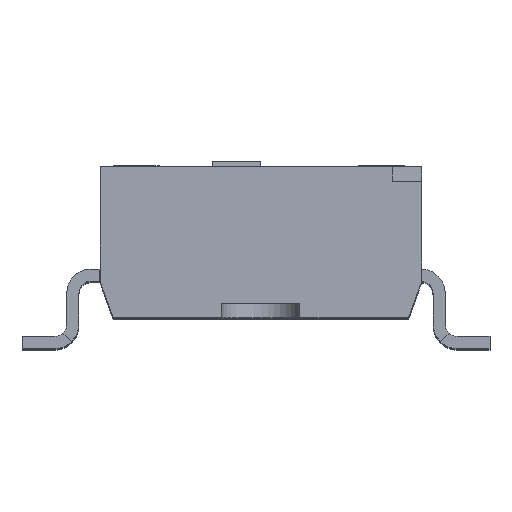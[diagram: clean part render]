
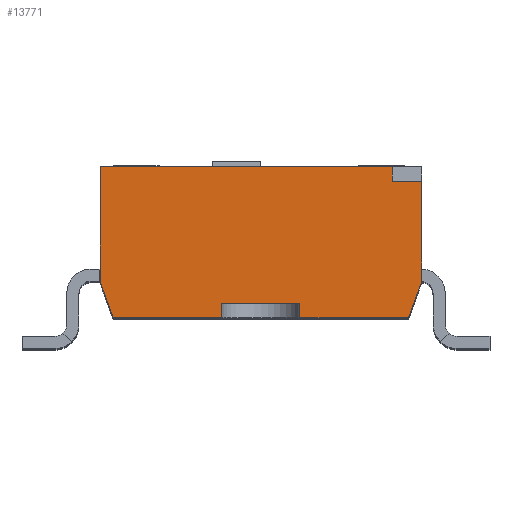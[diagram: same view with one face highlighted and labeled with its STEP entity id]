
A CAD part, top view. The second image highlights one B-rep face of the part: STEP entity #13771.
In plain terms, the highlighted planar face has unit normal (0, 0, 1).
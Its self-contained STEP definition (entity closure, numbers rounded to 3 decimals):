
#1451=DIRECTION('',(0.,1.,0.));
#1452=VECTOR('',#1451,0.3);
#1453=CARTESIAN_POINT('',(6.,0.4,20.26));
#1454=LINE('',#1453,#1452);
#1459=DIRECTION('',(-1.,0.,0.));
#1460=VECTOR('',#1459,6.);
#1461=CARTESIAN_POINT('',(6.,0.7,20.26));
#1462=LINE('',#1461,#1460);
#1463=DIRECTION('',(-1.,0.,0.));
#1464=VECTOR('',#1463,0.6);
#1465=CARTESIAN_POINT('',(6.6,0.4,20.26));
#1466=LINE('',#1465,#1464);
#1467=DIRECTION('',(0.339,0.941,0.));
#1468=VECTOR('',#1467,0.797);
#1469=CARTESIAN_POINT('',(6.33,-2.4,20.26));
#1470=LINE('',#1469,#1468);
#1471=DIRECTION('',(1.,0.,0.));
#1472=VECTOR('',#1471,2.23);
#1473=CARTESIAN_POINT('',(4.1,-2.4,20.26));
#1474=LINE('',#1473,#1472);
#1475=DIRECTION('',(0.,-1.,0.));
#1476=VECTOR('',#1475,0.3);
#1477=CARTESIAN_POINT('',(4.1,-2.1,20.26));
#1478=LINE('',#1477,#1476);
#1479=DIRECTION('',(1.,0.,0.));
#1480=VECTOR('',#1479,1.6);
#1481=CARTESIAN_POINT('',(2.5,-2.1,20.26));
#1482=LINE('',#1481,#1480);
#1483=DIRECTION('',(0.,1.,0.));
#1484=VECTOR('',#1483,0.3);
#1485=CARTESIAN_POINT('',(2.5,-2.4,20.26));
#1486=LINE('',#1485,#1484);
#1487=DIRECTION('',(1.,0.,0.));
#1488=VECTOR('',#1487,2.23);
#1489=CARTESIAN_POINT('',(0.27,-2.4,20.26));
#1490=LINE('',#1489,#1488);
#1491=DIRECTION('',(0.339,-0.941,0.));
#1492=VECTOR('',#1491,0.797);
#1493=CARTESIAN_POINT('',(0.,-1.65,20.26));
#1494=LINE('',#1493,#1492);
#1511=DIRECTION('',(0.,-1.,0.));
#1512=VECTOR('',#1511,2.35);
#1513=CARTESIAN_POINT('',(0.,0.7,20.26));
#1514=LINE('',#1513,#1512);
#1619=DIRECTION('',(0.,1.,0.));
#1620=VECTOR('',#1619,2.05);
#1621=CARTESIAN_POINT('',(6.6,-1.65,20.26));
#1622=LINE('',#1621,#1620);
#9733=CARTESIAN_POINT('',(6.6,0.4,20.26));
#9734=CARTESIAN_POINT('',(6.,0.4,20.26));
#9735=VERTEX_POINT('',#9733);
#9736=VERTEX_POINT('',#9734);
#9741=CARTESIAN_POINT('',(6.,0.7,20.26));
#9743=VERTEX_POINT('',#9741);
#9745=CARTESIAN_POINT('',(0.,0.7,20.26));
#9746=VERTEX_POINT('',#9745);
#10013=CARTESIAN_POINT('',(0.,-1.65,20.26));
#10014=CARTESIAN_POINT('',(0.27,-2.4,20.26));
#10015=VERTEX_POINT('',#10013);
#10016=VERTEX_POINT('',#10014);
#10038=CARTESIAN_POINT('',(2.5,-2.4,20.26));
#10039=VERTEX_POINT('',#10038);
#10044=CARTESIAN_POINT('',(4.1,-2.4,20.26));
#10045=VERTEX_POINT('',#10044);
#10046=CARTESIAN_POINT('',(6.33,-2.4,20.26));
#10047=VERTEX_POINT('',#10046);
#10057=CARTESIAN_POINT('',(4.1,-2.1,20.26));
#10059=VERTEX_POINT('',#10057);
#10062=CARTESIAN_POINT('',(2.5,-2.1,20.26));
#10063=VERTEX_POINT('',#10062);
#10064=CARTESIAN_POINT('',(6.6,-1.65,20.26));
#10065=VERTEX_POINT('',#10064);
#13742=CARTESIAN_POINT('',(3.3,-1.2,20.26));
#13743=DIRECTION('',(0.,0.,1.));
#13744=DIRECTION('',(1.,0.,0.));
#13745=AXIS2_PLACEMENT_3D('',#13742,#13743,#13744);
#13746=PLANE('',#13745);
#13748=ORIENTED_EDGE('',*,*,#13747,.F.);
#13749=ORIENTED_EDGE('',*,*,#12865,.F.);
#13750=ORIENTED_EDGE('',*,*,#13732,.F.);
#13752=ORIENTED_EDGE('',*,*,#13751,.F.);
#13754=ORIENTED_EDGE('',*,*,#13753,.F.);
#13756=ORIENTED_EDGE('',*,*,#13755,.F.);
#13758=ORIENTED_EDGE('',*,*,#13757,.F.);
#13760=ORIENTED_EDGE('',*,*,#13759,.F.);
#13762=ORIENTED_EDGE('',*,*,#13761,.F.);
#13764=ORIENTED_EDGE('',*,*,#13763,.F.);
#13766=ORIENTED_EDGE('',*,*,#13765,.F.);
#13768=ORIENTED_EDGE('',*,*,#13767,.F.);
#13769=EDGE_LOOP('',(#13748,#13749,#13750,#13752,#13754,#13756,#13758,#13760,
#13762,#13764,#13766,#13768));
#13770=FACE_OUTER_BOUND('',#13769,.F.);
#12865=EDGE_CURVE('',#9743,#9746,#1462,.T.);
#13732=EDGE_CURVE('',#9736,#9743,#1454,.T.);
#13747=EDGE_CURVE('',#9746,#10015,#1514,.T.);
#13751=EDGE_CURVE('',#9735,#9736,#1466,.T.);
#13753=EDGE_CURVE('',#10065,#9735,#1622,.T.);
#13755=EDGE_CURVE('',#10047,#10065,#1470,.T.);
#13757=EDGE_CURVE('',#10045,#10047,#1474,.T.);
#13759=EDGE_CURVE('',#10059,#10045,#1478,.T.);
#13761=EDGE_CURVE('',#10063,#10059,#1482,.T.);
#13763=EDGE_CURVE('',#10039,#10063,#1486,.T.);
#13765=EDGE_CURVE('',#10016,#10039,#1490,.T.);
#13767=EDGE_CURVE('',#10015,#10016,#1494,.T.);
#13771=ADVANCED_FACE('',(#13770),#13746,.T.);
